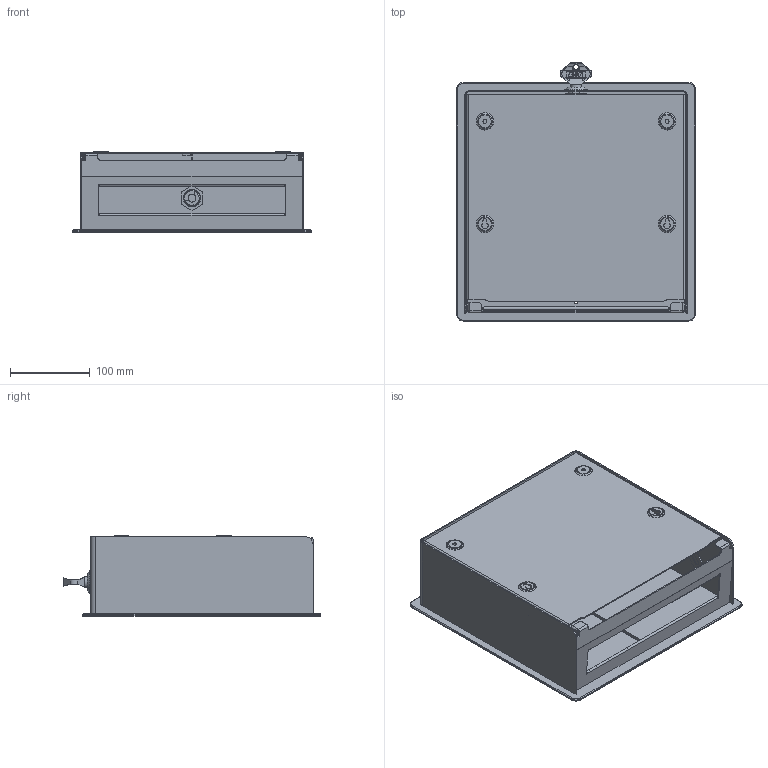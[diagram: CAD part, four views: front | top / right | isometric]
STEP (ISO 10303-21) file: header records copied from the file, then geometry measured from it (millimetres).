
FILE_DESCRIPTION(/* description */ (''),/* implementation_level */ '2;1');
FILE_NAME(/* name */ 'X:\Standardvarer\4100 DAN DRYER LOKI paper dispenser\Tegninger\Public 3D files\4100 DAN DRYER LOKI paper dispenser.stp',/* time_stamp */ '2020-09-28T15:26:48+02:00',/* author */ ('Dan Dryer'),/* organization */ (''),/* preprocessor_version */ 'ST-DEVELOPER v16.1',/* originating_system */ 'Autodesk Inventor 2016',/* authorisation */ '');
FILE_SCHEMA (('AUTOMOTIVE_DESIGN { 1 0 10303 214 3 1 1 }'));
Length unit declared in the file: millimetre
Products named in the file (15): 67360-10; 67110-12; 67360; 67350-10; 67350-11; 67350-12; 67350-13; M6; Viking logo i streg 24x9 - tykke streger til brug i Inventor; 67350; 28200-1; 28202; 28200-2; 28200; 4100 DAN DRYER LOKI paper dispenser
Assembly tree (16 placements, depth 3):
  4100 DAN DRYER LOKI paper dispenser
    67360
      67360-10
      67110-12
    67350
      67350-10
      67350-11
      67350-12
      67350-13  x2
      M6  x2
      Viking logo i streg 24x9 - tykke streger til brug i Inventor
    28200
      28200-2
      28200-1
    28202
Bounding box: 300 x 324.5 x 101.6 mm (x, y, z)
Volume: 553138.3 mm3; surface area: 564590.4 mm2
Topology: 23 solids, 24 shells, 771 faces, 1965 edges, 1264 vertices
Faces by surface type: plane 518, cylinder 197, torus 25, cone 23, bspline 8
Full cylindrical faces by diameter (mm): 4.2 x2, 4.917 x2, 5 x4, 6 x3, 10 x1, 13.5 x1, 16.1 x1, 19.8 x1, 20 x1, 22 x1, 28 x1
Entity records: 24941 total; most frequent: CARTESIAN_POINT 6023, DIRECTION 3781, ORIENTED_EDGE 3755, EDGE_CURVE 1879, LINE 1379, VECTOR 1379, VERTEX_POINT 1236, AXIS2_PLACEMENT_3D 1201
